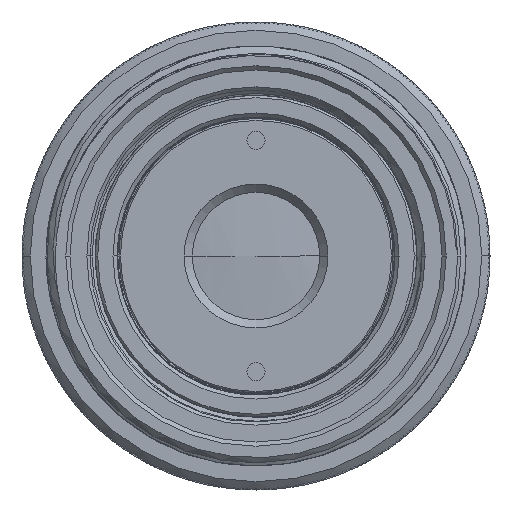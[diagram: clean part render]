
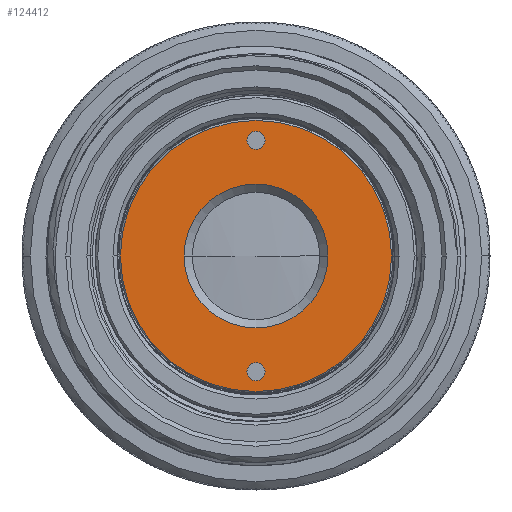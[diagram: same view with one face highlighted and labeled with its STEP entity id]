
A CAD part, front view. The second image highlights one B-rep face of the part: STEP entity #124412.
In plain terms, the highlighted planar face has unit normal (0, -1, 0).
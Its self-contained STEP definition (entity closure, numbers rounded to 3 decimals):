
#60933=CARTESIAN_POINT('',(0.,10.85,-7.));
#60934=DIRECTION('',(0.,-1.,0.));
#60935=DIRECTION('',(0.,0.,-1.));
#60936=AXIS2_PLACEMENT_3D('',#60933,#60934,#60935);
#60938=CARTESIAN_POINT('',(0.,10.85,-7.));
#60939=DIRECTION('',(0.,-1.,0.));
#60940=DIRECTION('',(0.,0.,1.));
#60941=AXIS2_PLACEMENT_3D('',#60938,#60939,#60940);
#60943=CARTESIAN_POINT('',(0.,10.85,7.));
#60944=DIRECTION('',(0.,-1.,0.));
#60945=DIRECTION('',(0.,0.,-1.));
#60946=AXIS2_PLACEMENT_3D('',#60943,#60944,#60945);
#60948=CARTESIAN_POINT('',(0.,10.85,7.));
#60949=DIRECTION('',(0.,-1.,0.));
#60950=DIRECTION('',(0.,0.,1.));
#60951=AXIS2_PLACEMENT_3D('',#60948,#60949,#60950);
#60953=CARTESIAN_POINT('',(0.,10.85,0.));
#60954=DIRECTION('',(0.,1.,0.));
#60955=DIRECTION('',(1.,0.,0.));
#60956=AXIS2_PLACEMENT_3D('',#60953,#60954,#60955);
#60958=CARTESIAN_POINT('',(0.,10.85,0.));
#60959=DIRECTION('',(0.,1.,0.));
#60960=DIRECTION('',(-1.,0.,0.));
#60961=AXIS2_PLACEMENT_3D('',#60958,#60959,#60960);
#60963=CARTESIAN_POINT('',(0.,10.85,0.));
#60964=DIRECTION('',(0.,1.,0.));
#60965=DIRECTION('',(1.,0.,0.));
#60966=AXIS2_PLACEMENT_3D('',#60963,#60964,#60965);
#60968=CARTESIAN_POINT('',(0.,10.85,0.));
#60969=DIRECTION('',(0.,1.,0.));
#60970=DIRECTION('',(-1.,0.,0.));
#60971=AXIS2_PLACEMENT_3D('',#60968,#60969,#60970);
#74667=CARTESIAN_POINT('',(0.,10.85,-7.55));
#74668=CARTESIAN_POINT('',(0.,10.85,-6.45));
#74669=VERTEX_POINT('',#74667);
#74670=VERTEX_POINT('',#74668);
#74671=CARTESIAN_POINT('',(0.,10.85,6.45));
#74672=CARTESIAN_POINT('',(0.,10.85,7.55));
#74673=VERTEX_POINT('',#74671);
#74674=VERTEX_POINT('',#74672);
#74675=CARTESIAN_POINT('',(4.35,10.85,0.));
#74676=CARTESIAN_POINT('',(-4.35,10.85,0.));
#74677=VERTEX_POINT('',#74675);
#74678=VERTEX_POINT('',#74676);
#74687=CARTESIAN_POINT('',(8.2,10.85,0.));
#74688=CARTESIAN_POINT('',(-8.2,10.85,0.));
#74689=VERTEX_POINT('',#74687);
#74690=VERTEX_POINT('',#74688);
#124385=CARTESIAN_POINT('',(0.,10.85,0.));
#124386=DIRECTION('',(0.,1.,0.));
#124387=DIRECTION('',(1.,0.,0.));
#124388=AXIS2_PLACEMENT_3D('',#124385,#124386,#124387);
#124389=PLANE('',#124388);
#124390=ORIENTED_EDGE('',*,*,#124272,.T.);
#124391=ORIENTED_EDGE('',*,*,#124379,.T.);
#124392=EDGE_LOOP('',(#124390,#124391));
#124393=FACE_OUTER_BOUND('',#124392,.F.);
#124395=ORIENTED_EDGE('',*,*,#124394,.T.);
#124397=ORIENTED_EDGE('',*,*,#124396,.T.);
#124398=EDGE_LOOP('',(#124395,#124397));
#124399=FACE_BOUND('',#124398,.F.);
#124401=ORIENTED_EDGE('',*,*,#124400,.F.);
#124403=ORIENTED_EDGE('',*,*,#124402,.F.);
#124404=EDGE_LOOP('',(#124401,#124403));
#124405=FACE_BOUND('',#124404,.F.);
#124407=ORIENTED_EDGE('',*,*,#124406,.T.);
#124409=ORIENTED_EDGE('',*,*,#124408,.T.);
#124410=EDGE_LOOP('',(#124407,#124409));
#124411=FACE_BOUND('',#124410,.F.);
#60937=CIRCLE('',#60936,0.55);
#60942=CIRCLE('',#60941,0.55);
#60947=CIRCLE('',#60946,0.55);
#60952=CIRCLE('',#60951,0.55);
#60957=CIRCLE('',#60956,4.35);
#60962=CIRCLE('',#60961,4.35);
#60967=CIRCLE('',#60966,8.2);
#60972=CIRCLE('',#60971,8.2);
#124272=EDGE_CURVE('',#74689,#74690,#60967,.T.);
#124379=EDGE_CURVE('',#74690,#74689,#60972,.T.);
#124394=EDGE_CURVE('',#74673,#74674,#60947,.T.);
#124396=EDGE_CURVE('',#74674,#74673,#60952,.T.);
#124400=EDGE_CURVE('',#74677,#74678,#60957,.T.);
#124402=EDGE_CURVE('',#74678,#74677,#60962,.T.);
#124406=EDGE_CURVE('',#74669,#74670,#60937,.T.);
#124408=EDGE_CURVE('',#74670,#74669,#60942,.T.);
#124412=ADVANCED_FACE('',(#124393,#124399,#124405,#124411),#124389,.F.);
